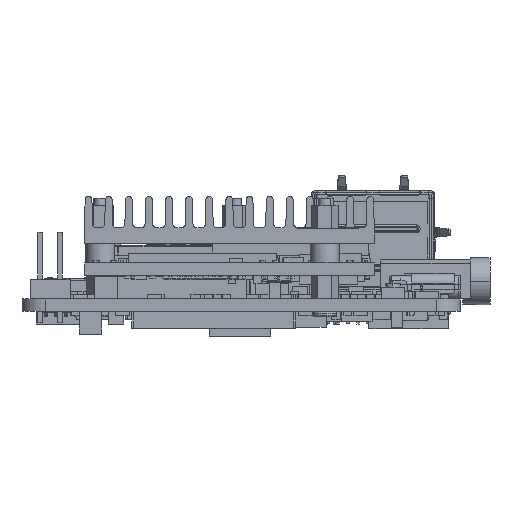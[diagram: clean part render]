
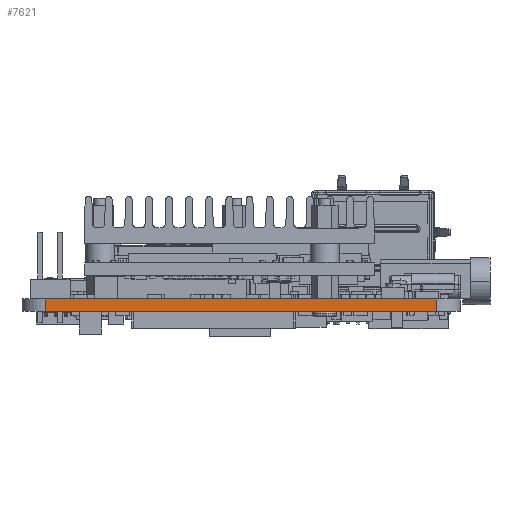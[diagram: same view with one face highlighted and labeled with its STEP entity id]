
A CAD part, left-side view. The second image highlights one B-rep face of the part: STEP entity #7621.
In plain terms, the highlighted planar face has unit normal (-1, 0, 0).
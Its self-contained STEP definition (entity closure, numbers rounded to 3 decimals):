
#24=DIRECTION('',(0.,-1.,0.));
#25=VECTOR('',#24,50.);
#26=CARTESIAN_POINT('',(-42.5,25.,0.));
#27=LINE('',#26,#25);
#1821=DIRECTION('',(0.,-1.,0.));
#1822=VECTOR('',#1821,50.);
#1823=CARTESIAN_POINT('',(-42.5,25.,-1.6));
#1824=LINE('',#1823,#1822);
#3562=DIRECTION('',(0.,0.,-1.));
#3563=VECTOR('',#3562,1.6);
#3564=CARTESIAN_POINT('',(-42.5,-25.,0.));
#3565=LINE('',#3564,#3563);
#3569=DIRECTION('',(0.,0.,-1.));
#3570=VECTOR('',#3569,1.6);
#3571=CARTESIAN_POINT('',(-42.5,25.,0.));
#3572=LINE('',#3571,#3570);
#5259=CARTESIAN_POINT('',(-42.5,-25.,-1.6));
#5261=VERTEX_POINT('',#5259);
#5262=CARTESIAN_POINT('',(-42.5,-25.,0.));
#5263=VERTEX_POINT('',#5262);
#5266=CARTESIAN_POINT('',(-42.5,25.,-1.6));
#5268=VERTEX_POINT('',#5266);
#5272=CARTESIAN_POINT('',(-42.5,25.,0.));
#5273=VERTEX_POINT('',#5272);
#7610=CARTESIAN_POINT('',(-42.5,28.,0.));
#7611=DIRECTION('',(-1.,0.,0.));
#7612=DIRECTION('',(0.,-1.,0.));
#7613=AXIS2_PLACEMENT_3D('',#7610,#7611,#7612);
#7614=PLANE('',#7613);
#7615=ORIENTED_EDGE('',*,*,#6855,.T.);
#7616=ORIENTED_EDGE('',*,*,#6881,.F.);
#7617=ORIENTED_EDGE('',*,*,#7605,.F.);
#7618=ORIENTED_EDGE('',*,*,#6185,.T.);
#7619=EDGE_LOOP('',(#7615,#7616,#7617,#7618));
#7620=FACE_OUTER_BOUND('',#7619,.F.);
#6185=EDGE_CURVE('',#5273,#5263,#27,.T.);
#6855=EDGE_CURVE('',#5263,#5261,#3565,.T.);
#6881=EDGE_CURVE('',#5268,#5261,#1824,.T.);
#7605=EDGE_CURVE('',#5273,#5268,#3572,.T.);
#7621=ADVANCED_FACE('',(#7620),#7614,.T.);
